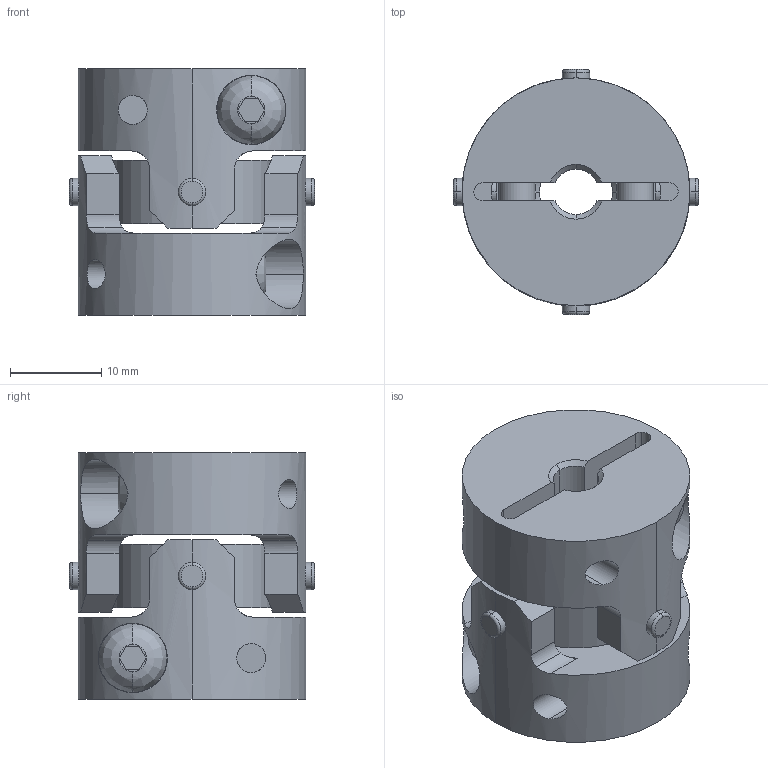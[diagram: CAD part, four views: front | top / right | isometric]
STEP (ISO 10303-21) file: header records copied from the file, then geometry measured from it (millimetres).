
FILE_DESCRIPTION((''),'2;1');
FILE_NAME('UA-25C-5×8.stp','2013-05-16T09:15:28',(''),(''),'AutoCAD STEP 2000i','AutoCAD 2000i',', , ');
FILE_SCHEMA(('CONFIG_CONTROL_DESIGN'));
Length unit declared in the file: millimetre
Products named in the file (6): UA-25C-5×5; 忣兜1; UA-2502-D05-1; BTN-M4; UA-2502-D05; UA25-SEN
Assembly tree (6 placements, depth 3):
  UA-25C-5×5
    忣兜1
    UA-2502-D05-1
      BTN-M4
    UA-2502-D05
      BTN-M4
    UA25-SEN
Bounding box: 26.89 x 26.89 x 27 mm (x, y, z)
Volume: 9266.1 mm3; surface area: 6482.4 mm2
Topology: 1 solids, 1 shells, 206 faces, 554 edges, 364 vertices
Faces by surface type: cylinder 96, plane 78, cone 16, bspline 8, torus 8
Entity records: 8291 total; most frequent: CARTESIAN_POINT 2975, ORIENTED_EDGE 1108, DIRECTION 1064, EDGE_CURVE 554, AXIS2_PLACEMENT_3D 409, VERTEX_POINT 364, VECTOR 246, LINE 246
